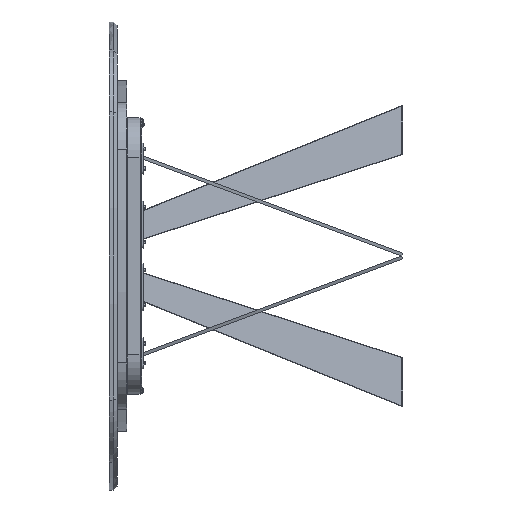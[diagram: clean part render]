
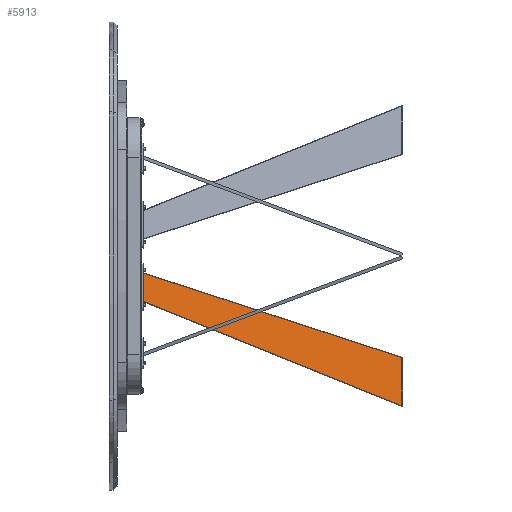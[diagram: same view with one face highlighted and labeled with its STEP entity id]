
A CAD part, left-side view. The second image highlights one B-rep face of the part: STEP entity #5913.
In plain terms, the highlighted planar face has unit normal (-0.937, -0.35, 0) as drawn and (-1, 0, 0) by its records, which use the part's own axes.
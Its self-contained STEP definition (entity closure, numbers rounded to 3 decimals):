
#317 = DIRECTION ( 'NONE',  ( 0., 1., 0. ) ) ;
#857 = CARTESIAN_POINT ( 'NONE',  ( -4., 47.351, -14.477 ) ) ;
#946 = VECTOR ( 'NONE', #5435, 1000. ) ;
#2328 = PLANE ( 'NONE',  #4581 ) ;
#2690 = CARTESIAN_POINT ( 'NONE',  ( -4., 73.118, 69.801 ) ) ;
#3930 = LINE ( 'NONE', #11535, #946 ) ;
#4087 = EDGE_CURVE ( 'NONE', #21998, #14382, #13673, .T. ) ;
#4303 = EDGE_LOOP ( 'NONE', ( #11624, #10898, #21785, #21478 ) ) ;
#4581 = AXIS2_PLACEMENT_3D ( 'NONE', #9935, #17558, #9453 ) ;
#5435 = DIRECTION ( 'NONE',  ( 0., 0.292, 0.956 ) ) ;
#5827 = FACE_OUTER_BOUND ( 'NONE', #4303, .T. ) ;
#5913 = ADVANCED_FACE ( 'NONE', ( #5827 ), #2328, .F. ) ;
#6535 = DIRECTION ( 'NONE',  ( 0., -0.998, -0.066 ) ) ;
#6580 = CARTESIAN_POINT ( 'NONE',  ( -4., 830.546, 119.538 ) ) ;
#6778 = CARTESIAN_POINT ( 'NONE',  ( -4., 830.546, 119.538 ) ) ;
#9453 = DIRECTION ( 'NONE',  ( 0., 0., -1. ) ) ;
#9935 = CARTESIAN_POINT ( 'NONE',  ( -4., 0., 0. ) ) ;
#10861 = EDGE_CURVE ( 'NONE', #14382, #14194, #3930, .T. ) ;
#10898 = ORIENTED_EDGE ( 'NONE', *, *, #16508, .T. ) ;
#11535 = CARTESIAN_POINT ( 'NONE',  ( -4., 794., 0. ) ) ;
#11624 = ORIENTED_EDGE ( 'NONE', *, *, #4087, .F. ) ;
#12383 = VECTOR ( 'NONE', #6535, 1000. ) ;
#13673 = LINE ( 'NONE', #17440, #16881 ) ;
#14194 = VERTEX_POINT ( 'NONE', #6580 ) ;
#14382 = VERTEX_POINT ( 'NONE', #24182 ) ;
#16118 = DIRECTION ( 'NONE',  ( 0., 0.292, 0.956 ) ) ;
#16508 = EDGE_CURVE ( 'NONE', #21998, #20440, #17972, .T. ) ;
#16881 = VECTOR ( 'NONE', #317, 1000. ) ;
#17440 = CARTESIAN_POINT ( 'NONE',  ( -4., 0., 0. ) ) ;
#17558 = DIRECTION ( 'NONE',  ( 1., 0., 0. ) ) ;
#17972 = LINE ( 'NONE', #857, #18531 ) ;
#18531 = VECTOR ( 'NONE', #16118, 1000. ) ;
#20440 = VERTEX_POINT ( 'NONE', #2690 ) ;
#21478 = ORIENTED_EDGE ( 'NONE', *, *, #10861, .F. ) ;
#21785 = ORIENTED_EDGE ( 'NONE', *, *, #22466, .F. ) ;
#21907 = CARTESIAN_POINT ( 'NONE',  ( -4., 51.777, 0. ) ) ;
#21998 = VERTEX_POINT ( 'NONE', #21907 ) ;
#22466 = EDGE_CURVE ( 'NONE', #14194, #20440, #23646, .T. ) ;
#23646 = LINE ( 'NONE', #6778, #12383 ) ;
#24182 = CARTESIAN_POINT ( 'NONE',  ( -4., 794., 0. ) ) ;
